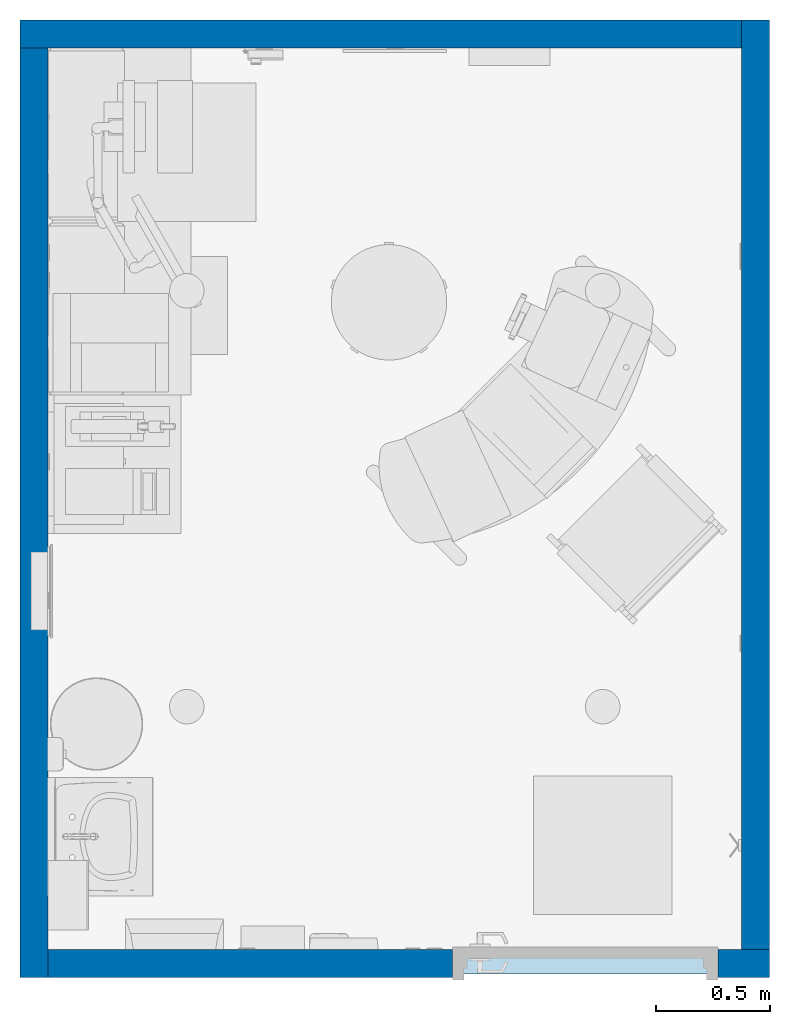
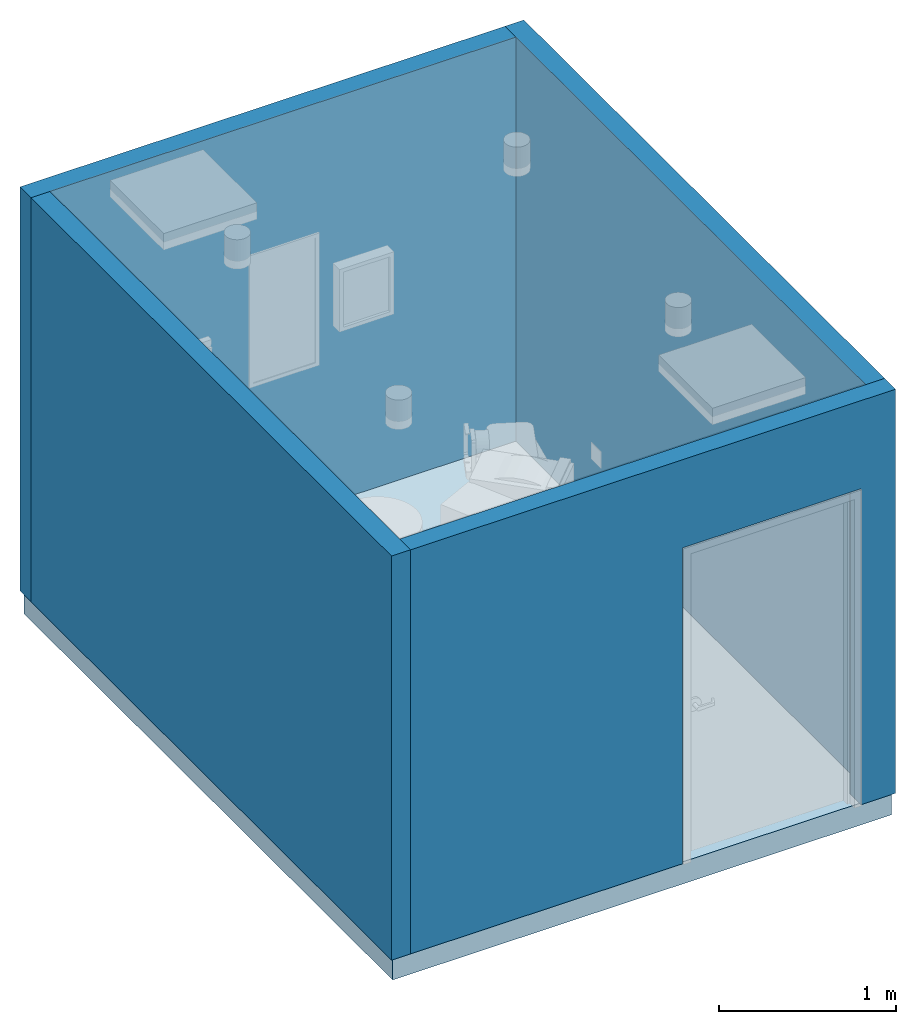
# One storey, part 1 of 12: 4 walls, 1 slab, 1 opening.
"""IFC2X3 building model written with IfcOpenShell, lengths in feet."""

from ifc_helpers import new_model, entity, si_unit, converted_unit, derived_unit, direction, frame, frame_2d, origin, place, context, subcontext, project, spatial, rectangle, extrude, material, layer, layer_set, layer_usage, type_object, element, save


model = new_model("IFC2X3")

# Units and contexts
model_context = context("Model", 3, precision=0.0001, world=origin(), true_north=direction((6.12303176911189e-17, 1.0)))
body_context = subcontext(model_context, "Body", "Model", "MODEL_VIEW")
ifc_project = project(units=[converted_unit("LENGTHUNIT", "FOOT", entity("IfcRatioMeasure", 0.3048), si_unit("LENGTHUNIT", "METRE"), dimensions=[1, 0, 0, 0, 0, 0, 0]), converted_unit("AREAUNIT", "SQUARE FOOT", entity("IfcRatioMeasure", 0.09290304), si_unit("AREAUNIT", "SQUARE_METRE"), dimensions=[2, 0, 0, 0, 0, 0, 0]), converted_unit("VOLUMEUNIT", "CUBIC FOOT", entity("IfcRatioMeasure", 0.028316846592), si_unit("VOLUMEUNIT", "CUBIC_METRE"), dimensions=[3, 0, 0, 0, 0, 0, 0]), converted_unit("PLANEANGLEUNIT", "DEGREE", entity("IfcRatioMeasure", 0.0174532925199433), si_unit("PLANEANGLEUNIT", "RADIAN"), dimensions=[0, 0, 0, 0, 0, 0, 0]), si_unit("MASSUNIT", "GRAM", prefix="KILO"), derived_unit("MASSDENSITYUNIT", [(si_unit("MASSUNIT", "GRAM", prefix="KILO"), 1), (si_unit("LENGTHUNIT", "METRE"), -3)]), si_unit("TIMEUNIT", "SECOND"), si_unit("FREQUENCYUNIT", "HERTZ"), si_unit("THERMODYNAMICTEMPERATUREUNIT", "DEGREE_CELSIUS"), derived_unit("THERMALTRANSMITTANCEUNIT", [(si_unit("MASSUNIT", "GRAM", prefix="KILO"), 1), (si_unit("THERMODYNAMICTEMPERATUREUNIT", "KELVIN"), -1), (si_unit("TIMEUNIT", "SECOND"), -3)]), derived_unit("VOLUMETRICFLOWRATEUNIT", [(si_unit("LENGTHUNIT", "METRE"), 3), (si_unit("TIMEUNIT", "SECOND"), -1)]), si_unit("ELECTRICCURRENTUNIT", "AMPERE"), si_unit("ELECTRICVOLTAGEUNIT", "VOLT"), si_unit("POWERUNIT", "WATT"), si_unit("FORCEUNIT", "NEWTON"), si_unit("ILLUMINANCEUNIT", "LUX"), si_unit("LUMINOUSFLUXUNIT", "LUMEN"), si_unit("LUMINOUSINTENSITYUNIT", "CANDELA"), derived_unit("USERDEFINED", [(si_unit("MASSUNIT", "GRAM", prefix="KILO"), -1), (si_unit("LENGTHUNIT", "METRE"), -2), (si_unit("TIMEUNIT", "SECOND"), 3), (si_unit("LUMINOUSFLUXUNIT", "LUMEN"), 1)]), derived_unit("LINEARVELOCITYUNIT", [(si_unit("LENGTHUNIT", "METRE"), 1), (si_unit("TIMEUNIT", "SECOND"), -1)]), si_unit("PRESSUREUNIT", "PASCAL"), derived_unit("USERDEFINED", [(si_unit("LENGTHUNIT", "METRE"), -2), (si_unit("MASSUNIT", "GRAM", prefix="KILO"), 1), (si_unit("TIMEUNIT", "SECOND"), -2)])], contexts=[model_context])

# Site, building, storey
site_placement = place(None, origin())
site = spatial("IfcSite", under=ifc_project, at=site_placement, Name="Default", CompositionType="ELEMENT")
building_placement = place(site_placement, origin())
building = spatial("IfcBuilding", under=site, at=building_placement, Name="EYE CLINIC:  OPTHALMOLOGY AND OPTOMETRY SERVICES (Ch. 233)", CompositionType="ELEMENT")
storey_placement = place(building_placement, origin())
storey = spatial("IfcBuildingStorey", under=building, at=storey_placement, Name="DATUM", CompositionType="ELEMENT", Elevation=0.0)

# Slab
ifc_material_1 = material(Name="Default Floor")
ifc_layer_1 = layer(ifc_material_1, 0.5)
ifc_layer_set_1 = layer_set([ifc_layer_1], Name="Floor:Generic - 6\"")
ifc_layer_usage_1 = layer_usage(ifc_layer_set_1, "AXIS3", "POSITIVE", 0.0)
slab_placement = place(storey_placement, origin())
element("IfcSlab", 1, at=slab_placement, inside=storey, material=ifc_layer_usage_1, Name="Floor:Generic - 6\"", ObjectType="Floor:Generic - 6\"", PredefinedType="FLOOR", context=body_context, shape_type="SweptSolid", body=[
    extrude(rectangle(XDim=13.7083333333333, YDim=10.7083333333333, at=frame_2d((-1.77635683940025e-15, 1.4210854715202e-14), x_axis=(1.0, 0.0))), frame((158.639769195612, 28.3076256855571, 0.0), z_axis=(0.0, 0.0, -1.0), x_axis=(0.0, 1.0, 0.0)), (0.0, 0.0, 1.0), 0.5),
])

# Wall
ifc_material_2 = material(Name="Default Wall")
ifc_layer_2 = layer(ifc_material_2, 0.40625)
ifc_layer_set_2 = layer_set([ifc_layer_2], Name="Basic Wall:Interior - 4 7/8\"")
ifc_layer_usage_2 = layer_usage(ifc_layer_set_2, "AXIS2", "NEGATIVE", 0.203125)
wall_type = type_object("IfcWallType", Name="Basic Wall:Interior - 4 7/8\"", PredefinedType="STANDARD", material=ifc_layer_set_2)
wall_1_placement = place(storey_placement, frame((153.233519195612, 35.0107506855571, 0.0)))
element("IfcWallStandardCase", 2, at=wall_1_placement, inside=storey, type_object=wall_type, material=ifc_layer_usage_2, Name="Basic Wall:Interior - 4 7/8\"", ObjectType="Basic Wall:Interior - 4 7/8\"", context=body_context, shape_type="SweptSolid", body=[
    extrude(rectangle(XDim=10.40625, YDim=0.40625, at=frame_2d((5.203125, -1.70696790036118e-15), x_axis=(-1.0, 0.0))), origin(), (0.0, 0.0, 1.0), 9.16666666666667),
])

# Wall, opening
ifc_layer_usage_3 = layer_usage(ifc_layer_set_2, "AXIS2", "NEGATIVE", 0.203125)
wall_2_placement = place(storey_placement, frame((164.046019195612, 21.6045006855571, 0.0), z_axis=(0.0, 0.0, 1.0), x_axis=(-1.0, 0.0, 0.0)))
wall_2 = element("IfcWallStandardCase", 3, at=wall_2_placement, inside=storey, type_object=wall_type, material=ifc_layer_usage_3, Name="Basic Wall:Interior - 4 7/8\"", ObjectType="Basic Wall:Interior - 4 7/8\"", context=body_context, shape_type="SweptSolid", body=[
    extrude(rectangle(XDim=10.40625, YDim=0.40625, at=frame_2d((5.203125, 1.12410081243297e-15), x_axis=(-1.0, 0.0))), origin(), (0.0, 0.0, 1.0), 9.16666666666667),
])
opening_placement = place(wall_2_placement, frame((4.57291666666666, 0.203124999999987, 0.0)))
element("IfcOpeningElement", 4, at=opening_placement, cuts=wall_2, Name="Single - Flush:42\" x 84\":1", ObjectType="Opening", context=body_context, shape_type="SweptSolid", body=[
    extrude(rectangle(XDim=3.83333333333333, YDim=7.16666666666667, at=frame_2d((3.58333333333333, 1.91666666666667), x_axis=(0.0, 1.0))), frame((0.0, 0.0, 0.0), z_axis=(0.0, -1.0, 0.0), x_axis=(0.0, 0.0, 1.0)), (0.0, 0.0, 1.0), 0.40625),
])

# Walls
ifc_layer_usage_4 = layer_usage(ifc_layer_set_2, "AXIS2", "NEGATIVE", 0.203125)
wall_3_placement = place(storey_placement, frame((163.842894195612, 35.2138756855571, 0.0), z_axis=(0.0, 0.0, 1.0), x_axis=(0.0, -1.0, 0.0)))
element("IfcWallStandardCase", 5, at=wall_3_placement, inside=storey, type_object=wall_type, material=ifc_layer_usage_4, Name="Basic Wall:Interior - 4 7/8\"", ObjectType="Basic Wall:Interior - 4 7/8\"", context=body_context, shape_type="SweptSolid", body=[
    extrude(rectangle(XDim=13.40625, YDim=0.40625, at=frame_2d((6.703125, -3.49720252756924e-15), x_axis=(-1.0, 0.0))), origin(), (0.0, 0.0, 1.0), 9.16666666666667),
])
ifc_layer_usage_5 = layer_usage(ifc_layer_set_2, "AXIS2", "POSITIVE", -0.203125)
wall_4_placement = place(storey_placement, frame((153.436644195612, 34.8076256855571, 0.0), z_axis=(0.0, 0.0, 1.0), x_axis=(0.0, -1.0, 0.0)))
element("IfcWallStandardCase", 6, at=wall_4_placement, inside=storey, type_object=wall_type, material=ifc_layer_usage_5, Name="Basic Wall:Interior - 4 7/8\"", ObjectType="Basic Wall:Interior - 4 7/8\"", context=body_context, shape_type="SweptSolid", body=[
    extrude(rectangle(XDim=13.40625, YDim=0.40625, at=frame_2d((6.703125, -3.49720252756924e-15), x_axis=(-1.0, 0.0))), origin(), (0.0, 0.0, 1.0), 9.16666666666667),
])

save(model, "model.ifc")
